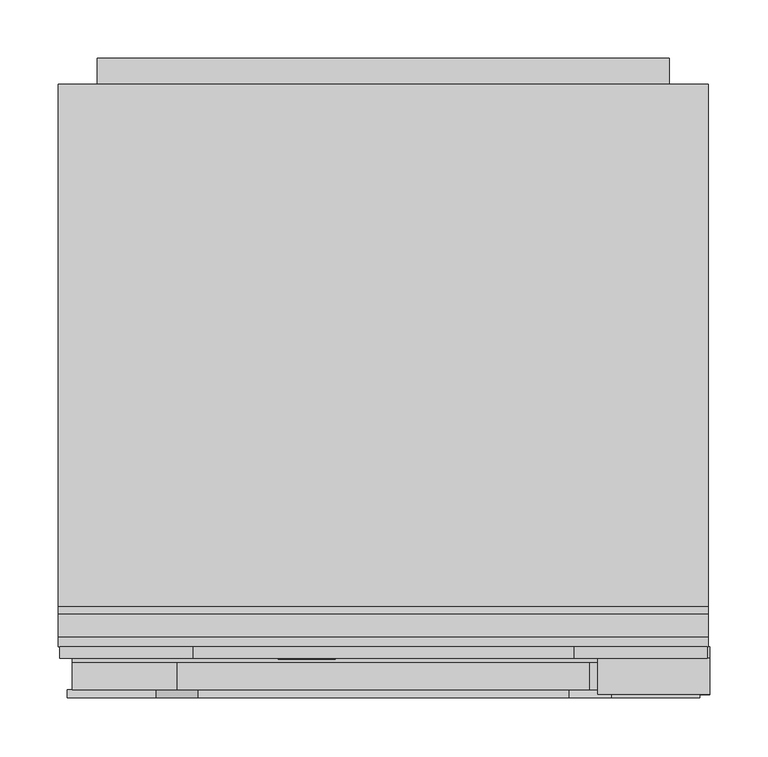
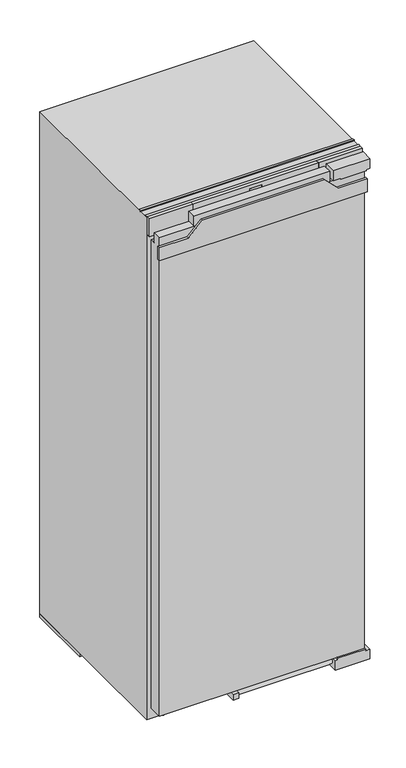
"""IFC4 building model written with IfcOpenShell, lengths in millimetres: proxy geometry, 12444110_EU1_K7447C : 36744700_EU1_12444110_K7447C."""

from ifc_helpers import new_model, si_unit, point, frame, frame_2d, origin, origin_with_axes, place, context, project, spatial, polyline, circle_curve, ellipse_curve, trimmed, segment, composite_curve, outline, extrude, faceted_brep, source, transform, mapped, element, save
from ifc_brep_helpers import plane_surface, cylinder_surface, revolved_surface, extruded_surface, advanced_brep


def specialty_equipment_6a50e842(model_context):
    return source(origin(), model_context, "Body", "SolidModel", [
        extrude(outline(polyline([(1355.0, 203.5), (1355.0, 269.5), (1358.0, 269.5), (1358.0, 279.5), (1385.0, 279.5), (1385.0, 183.5), (1358.0, 183.5), (1358.0, 203.5), (1355.0, 203.5)])), frame((0.0, 3.0, 0.0), z_axis=(0.0, 1.0, 0.0), x_axis=(0.0, 0.0, 1.0)), (0.0, 0.0, 1.0), 31.0),
        extrude(outline(polyline([(34.0, 189.5), (7.0, 189.5), (7.0, 279.5), (34.0, 279.5), (34.0, 268.5), (38.0, 268.5), (38.0, 195.5), (34.0, 195.5), (34.0, 189.5)])), frame((0.0, 3.0, 0.0), z_axis=(0.0, 1.0, 0.0), x_axis=(0.0, 0.0, 1.0)), (0.0, 0.0, 1.0), 41.0),
        extrude(outline(polyline([(7.0, 38.0), (7.0, 1355.0), (30.0, 1355.0), (30.0, 1328.0), (44.0, 1328.0), (44.0, 38.0), (7.0, 38.0)])), frame((-266.5, 0.0, 0.0), z_axis=(1.0, 0.0, 0.0), x_axis=(0.0, 1.0, 0.0)), (0.0, 0.0, 1.0), 533.0),
        extrude(outline(polyline([(176.5, 7.0), (-176.5, 7.0), (-176.5, 30.0), (176.5, 30.0), (176.5, 7.0)])), frame((0.0, 0.0, 1355.0), z_axis=(0.0, 0.0, 1.0), x_axis=(1.0, 0.0, 0.0)), (0.0, 0.0, 1.0), 28.0),
        extrude(outline(polyline([(1298.0, 271.0), (1334.0, 271.0), (1334.0, 195.0), (1370.0, 159.0), (1370.0, -159.0), (1334.0, -195.0), (1334.0, -271.0), (1298.0, -271.0), (1298.0, 271.0)])), frame((0.0, 0.0, 0.0), z_axis=(0.0, 1.0, 0.0), x_axis=(0.0, 0.0, 1.0)), (0.0, 0.0, 1.0), 7.0),
        extrude(outline(polyline([(-74.0, 42.0), (-59.0, 42.0), (-59.0, 8.0), (-74.0, 8.0), (-74.0, 42.0)])), frame((0.0, 0.0, 14.0), z_axis=(0.0, 0.0, 1.0), x_axis=(1.0, 0.0, 0.0)), (0.0, 0.0, 1.0), 15.0),
        extrude(outline(composite_curve([segment(trimmed(circle_curve(frame_2d((-65.5, 25.0)), 6.5), [point((-72.0, 25.0))], [point((-59.0, 25.0))], False, "CARTESIAN"), True, "CONTINUOUS"), segment(trimmed(circle_curve(frame_2d((-65.5, 25.0)), 6.5), [point((-59.0, 25.0))], [point((-72.0, 25.0))], False, "CARTESIAN"), True, "CONTINUOUS")], self_intersect=False)), frame((0.0, 0.0, 29.0), z_axis=(0.0, 0.0, 1.0), x_axis=(1.0, 0.0, 0.0)), (0.0, 0.0, 1.0), 9.0),
        extrude(outline(composite_curve([segment(trimmed(circle_curve(frame_2d((25.0, 23.0)), 9.0), [point((25.0, 14.0))], [point((25.0, 32.0))], False, "CARTESIAN"), True, "CONTINUOUS"), segment(trimmed(circle_curve(frame_2d((25.0, 23.0)), 9.0), [point((25.0, 32.0))], [point((25.0, 14.0))], False, "CARTESIAN"), True, "CONTINUOUS")], self_intersect=False)), frame((-59.0, 0.0, 0.0), z_axis=(1.0, 0.0, 0.0), x_axis=(0.0, 1.0, 0.0)), (0.0, 0.0, 1.0), 248.5),
        advanced_brep(
        [(-46.64, 33.0, 1367.896), (-46.64, 33.0, 1368.704), (-41.288, 33.0, 1368.704), (-50.6, 33.0, 1368.704), (-48.4, 33.0, 1366.0), (-41.424, 33.0, 1367.896), (-43.84, 33.0, 1367.896), (-45.744, 33.0, 1367.0), (-46.64, 33.0, 1369.728), (-46.64, 33.0, 1370.6), (-45.272, 33.0, 1370.6), (-45.272, 33.0, 1369.728), (-46.64, 34.0, 1367.896), (-45.744, 34.0, 1367.0), (-43.84, 34.0, 1367.896), (-41.424, 34.0, 1367.896), (-48.4, 34.0, 1366.0), (-50.6, 34.0, 1368.704), (-41.288, 34.0, 1368.704), (-46.64, 34.0, 1368.704), (-46.64, 34.0, 1369.728), (-45.272, 34.0, 1369.728), (-45.272, 34.0, 1370.6), (-46.64, 34.0, 1370.6)],
        [
            (0, 1),
            (1, 2),
            (2, 3, ellipse_curve(frame((-45.944, 33.0, 1368.704), z_axis=(0.0, -1.0, 0.0), x_axis=(-1.0, 0.0, 0.0)), 4.656, 3.848)),
            (3, 4, circle_curve(frame((-47.5039564, 33.0, 1368.976), z_axis=(0.0, -1.0, 0.0), x_axis=(0.0, 0.0, -1.0)), 3.1079688)),
            (4, 5, circle_curve(frame((-46.0372064, 33.0, 1371.088), z_axis=(0.0, -1.0, 0.0), x_axis=(0.0, 0.0, -1.0)), 5.6098607)),
            (5, 6),
            (6, 7, circle_curve(frame((-45.3529412, 33.0, 1368.64), z_axis=(0.0, 1.0, 0.0), x_axis=(0.0, 0.0, -1.0)), 1.6859795)),
            (7, 0, circle_curve(frame((-45.744, 33.0, 1367.896), z_axis=(0.0, 1.0, 0.0), x_axis=(0.0, 0.0, -1.0)), 0.896)),
            (8, 9),
            (9, 10, circle_curve(frame((-45.956, 33.0, 1370.6), z_axis=(0.0, 1.0, 0.0), x_axis=(0.0, 0.0, -1.0)), 0.684)),
            (10, 11),
            (11, 8),
            (12, 13, circle_curve(frame((-45.744, 34.0, 1367.896), z_axis=(0.0, -1.0, 0.0), x_axis=(0.0, 0.0, -1.0)), 0.896)),
            (13, 14, circle_curve(frame((-45.3529412, 34.0, 1368.64), z_axis=(0.0, -1.0, 0.0), x_axis=(0.0, 0.0, -1.0)), 1.6859795)),
            (14, 15),
            (15, 16, circle_curve(frame((-46.0372064, 34.0, 1371.088), z_axis=(0.0, 1.0, 0.0), x_axis=(0.0, 0.0, -1.0)), 5.6098607)),
            (16, 17, circle_curve(frame((-47.5039564, 34.0, 1368.976), z_axis=(0.0, 1.0, 0.0), x_axis=(0.0, 0.0, -1.0)), 3.1079688)),
            (17, 18, ellipse_curve(frame((-45.944, 34.0, 1368.704), z_axis=(0.0, 1.0, 0.0), x_axis=(-1.0, 0.0, 0.0)), 4.656, 3.848)),
            (18, 19),
            (19, 12),
            (20, 21),
            (21, 22),
            (22, 23, circle_curve(frame((-45.956, 34.0, 1370.6), z_axis=(0.0, -1.0, 0.0), x_axis=(0.0, 0.0, -1.0)), 0.684)),
            (23, 20),
            (0, 12),
            (19, 1),
            (18, 2),
            (5, 15),
            (14, 6),
            (17, 3),
            (13, 7),
            (16, 4),
            (8, 20),
            (23, 9),
            (22, 10),
            (21, 11),
        ],
        [
            plane_surface(frame((-46.64, 33.0, 1368.704), z_axis=(0.0, -1.0, 0.0), x_axis=(0.0, 0.0, 1.0))),
            plane_surface(frame((-46.64, 34.0, 1368.704), z_axis=(0.0, 1.0, 0.0), x_axis=(0.0, 0.0, -1.0))),
            plane_surface(frame((-46.64, 33.0, 1367.896), z_axis=(1.0, 0.0, 0.0), x_axis=(0.0, 1.0, 0.0))),
            plane_surface(frame((-46.64, 33.0, 1368.704), z_axis=(0.0, 0.0, -1.0), x_axis=(0.0, 1.0, 0.0))),
            plane_surface(frame((-41.424, 33.0, 1367.896), z_axis=(0.0, 0.0, 1.0), x_axis=(0.0, 1.0, 0.0))),
            extruded_surface(trimmed(ellipse_curve(frame((-45.944, 35.0, 1368.704), z_axis=(0.0, -1.0, 0.0), x_axis=(-1.0, 0.0, 0.0)), 4.656, 3.848), [point((-41.288, 35.0, 1368.704))], [point((-50.6, 35.0, 1368.704))], True, "CARTESIAN"), (0.0, -1.0, 0.0), 1.0),
            revolved_surface(polyline([(-45.3529412, 34.0, 1366.9540205), (-45.3529412, 33.0, 1366.9540205)]), (-45.3529412, 34.0, 1368.64), (0.0, 1.0, 0.0)),
            revolved_surface(polyline([(-45.744, 34.0, 1367.0), (-45.744, 33.0, 1367.0)]), (-45.744, 34.0, 1367.896), (0.0, 1.0, 0.0)),
            cylinder_surface(frame((-47.5039564, 34.0, 1368.976), z_axis=(0.0, -1.0, 0.0), x_axis=(0.0, 0.0, -1.0)), 3.1079688),
            cylinder_surface(frame((-46.0372064, 34.0, 1371.088), z_axis=(0.0, -1.0, 0.0), x_axis=(0.0, 0.0, -1.0)), 5.6098607),
            plane_surface(frame((-46.64, 33.0, 1369.728), z_axis=(1.0, 0.0, 0.0), x_axis=(0.0, 1.0, 0.0))),
            revolved_surface(polyline([(-45.956, 34.0, 1369.916), (-45.956, 33.0, 1369.916)]), (-45.956, 34.0, 1370.6), (0.0, 1.0, 0.0)),
            plane_surface(frame((-45.272, 33.0, 1370.6), z_axis=(-1.0, 0.0, 0.0), x_axis=(0.0, 1.0, 0.0))),
            plane_surface(frame((-45.272, 33.0, 1369.728), z_axis=(0.0, 0.0, 1.0), x_axis=(0.0, 1.0, 0.0))),
        ],
        [
            (0, [[1, 2, 3, 4, 5, 6, 7, 8], [9, 10, 11, 12]]),
            (1, [[13, 14, 15, 16, 17, 18, 19, 20], [21, 22, 23, 24]]),
            (2, [[-1, 25, -20, 26]]),
            (3, [[-2, -26, -19, 27]]),
            (4, [[-6, 28, -15, 29]]),
            (5, [[-3, -27, -18, 30]]),
            (6, [[-7, -29, -14, 31]]),
            (7, [[-8, -31, -13, -25]]),
            (8, [[-4, -30, -17, 32]]),
            (9, [[-5, -32, -16, -28]]),
            (10, [[-9, 33, -24, 34]]),
            (11, [[-10, -34, -23, 35]]),
            (12, [[-11, -35, -22, 36]]),
            (13, [[-12, -36, -21, -33]]),
        ],
    ),
        advanced_brep(
        [(-63.336, 33.0, 1367.896), (-63.336, 33.0, 1368.704), (-57.984, 33.0, 1368.704), (-67.296, 33.0, 1368.704), (-65.096, 33.0, 1366.0), (-58.12, 33.0, 1367.896), (-60.536, 33.0, 1367.896), (-62.44, 33.0, 1367.0), (-63.336, 33.0, 1369.728), (-63.336, 33.0, 1370.6), (-61.968, 33.0, 1370.6), (-61.968, 33.0, 1369.728), (-63.336, 34.0, 1367.896), (-62.44, 34.0, 1367.0), (-60.536, 34.0, 1367.896), (-58.12, 34.0, 1367.896), (-65.096, 34.0, 1366.0), (-67.296, 34.0, 1368.704), (-57.984, 34.0, 1368.704), (-63.336, 34.0, 1368.704), (-63.336, 34.0, 1369.728), (-61.968, 34.0, 1369.728), (-61.968, 34.0, 1370.6), (-63.336, 34.0, 1370.6)],
        [
            (0, 1),
            (1, 2),
            (2, 3, ellipse_curve(frame((-62.64, 33.0, 1368.704), z_axis=(0.0, -1.0, 0.0), x_axis=(-1.0, 0.0, 0.0)), 4.656, 3.848)),
            (3, 4, circle_curve(frame((-64.1999564, 33.0, 1368.976), z_axis=(0.0, -1.0, 0.0), x_axis=(0.0, 0.0, -1.0)), 3.1079688)),
            (4, 5, circle_curve(frame((-62.7332064, 33.0, 1371.088), z_axis=(0.0, -1.0, 0.0), x_axis=(0.0, 0.0, -1.0)), 5.6098607)),
            (5, 6),
            (6, 7, circle_curve(frame((-62.0489412, 33.0, 1368.64), z_axis=(0.0, 1.0, 0.0), x_axis=(0.0, 0.0, -1.0)), 1.6859795)),
            (7, 0, circle_curve(frame((-62.44, 33.0, 1367.896), z_axis=(0.0, 1.0, 0.0), x_axis=(0.0, 0.0, -1.0)), 0.896)),
            (8, 9),
            (9, 10, circle_curve(frame((-62.652, 33.0, 1370.6), z_axis=(0.0, 1.0, 0.0), x_axis=(0.0, 0.0, -1.0)), 0.684)),
            (10, 11),
            (11, 8),
            (12, 13, circle_curve(frame((-62.44, 34.0, 1367.896), z_axis=(0.0, -1.0, 0.0), x_axis=(0.0, 0.0, -1.0)), 0.896)),
            (13, 14, circle_curve(frame((-62.0489412, 34.0, 1368.64), z_axis=(0.0, -1.0, 0.0), x_axis=(0.0, 0.0, -1.0)), 1.6859795)),
            (14, 15),
            (15, 16, circle_curve(frame((-62.7332064, 34.0, 1371.088), z_axis=(0.0, 1.0, 0.0), x_axis=(0.0, 0.0, -1.0)), 5.6098607)),
            (16, 17, circle_curve(frame((-64.1999564, 34.0, 1368.976), z_axis=(0.0, 1.0, 0.0), x_axis=(0.0, 0.0, -1.0)), 3.1079688)),
            (17, 18, ellipse_curve(frame((-62.64, 34.0, 1368.704), z_axis=(0.0, 1.0, 0.0), x_axis=(-1.0, 0.0, 0.0)), 4.656, 3.848)),
            (18, 19),
            (19, 12),
            (20, 21),
            (21, 22),
            (22, 23, circle_curve(frame((-62.652, 34.0, 1370.6), z_axis=(0.0, -1.0, 0.0), x_axis=(0.0, 0.0, -1.0)), 0.684)),
            (23, 20),
            (0, 12),
            (19, 1),
            (18, 2),
            (5, 15),
            (14, 6),
            (17, 3),
            (13, 7),
            (16, 4),
            (8, 20),
            (23, 9),
            (22, 10),
            (21, 11),
        ],
        [
            plane_surface(frame((-63.336, 33.0, 1368.704), z_axis=(0.0, -1.0, 0.0), x_axis=(0.0, 0.0, 1.0))),
            plane_surface(frame((-63.336, 34.0, 1368.704), z_axis=(0.0, 1.0, 0.0), x_axis=(0.0, 0.0, -1.0))),
            plane_surface(frame((-63.336, 33.0, 1367.896), z_axis=(1.0, 0.0, 0.0), x_axis=(0.0, 1.0, 0.0))),
            plane_surface(frame((-63.336, 33.0, 1368.704), z_axis=(0.0, 0.0, -1.0), x_axis=(0.0, 1.0, 0.0))),
            plane_surface(frame((-58.12, 33.0, 1367.896), z_axis=(0.0, 0.0, 1.0), x_axis=(0.0, 1.0, 0.0))),
            extruded_surface(trimmed(ellipse_curve(frame((-62.64, 35.0, 1368.704), z_axis=(0.0, -1.0, 0.0), x_axis=(-1.0, 0.0, 0.0)), 4.656, 3.848), [point((-57.984, 35.0, 1368.704))], [point((-67.296, 35.0, 1368.704))], True, "CARTESIAN"), (0.0, -1.0, 0.0), 1.0),
            revolved_surface(polyline([(-62.0489412, 34.0, 1366.9540205), (-62.0489412, 33.0, 1366.9540205)]), (-62.0489412, 34.0, 1368.64), (0.0, 1.0, 0.0)),
            revolved_surface(polyline([(-62.44, 34.0, 1367.0), (-62.44, 33.0, 1367.0)]), (-62.44, 34.0, 1367.896), (0.0, 1.0, 0.0)),
            cylinder_surface(frame((-64.1999564, 34.0, 1368.976), z_axis=(0.0, -1.0, 0.0), x_axis=(0.0, 0.0, -1.0)), 3.1079688),
            cylinder_surface(frame((-62.7332064, 34.0, 1371.088), z_axis=(0.0, -1.0, 0.0), x_axis=(0.0, 0.0, -1.0)), 5.6098607),
            plane_surface(frame((-63.336, 33.0, 1369.728), z_axis=(1.0, 0.0, 0.0), x_axis=(0.0, 1.0, 0.0))),
            revolved_surface(polyline([(-62.652, 34.0, 1369.916), (-62.652, 33.0, 1369.916)]), (-62.652, 34.0, 1370.6), (0.0, 1.0, 0.0)),
            plane_surface(frame((-61.968, 33.0, 1370.6), z_axis=(-1.0, 0.0, 0.0), x_axis=(0.0, 1.0, 0.0))),
            plane_surface(frame((-61.968, 33.0, 1369.728), z_axis=(0.0, 0.0, 1.0), x_axis=(0.0, 1.0, 0.0))),
        ],
        [
            (0, [[1, 2, 3, 4, 5, 6, 7, 8], [9, 10, 11, 12]]),
            (1, [[13, 14, 15, 16, 17, 18, 19, 20], [21, 22, 23, 24]]),
            (2, [[-1, 25, -20, 26]]),
            (3, [[-2, -26, -19, 27]]),
            (4, [[-6, 28, -15, 29]]),
            (5, [[-3, -27, -18, 30]]),
            (6, [[-7, -29, -14, 31]]),
            (7, [[-8, -31, -13, -25]]),
            (8, [[-4, -30, -17, 32]]),
            (9, [[-5, -32, -16, -28]]),
            (10, [[-9, 33, -24, 34]]),
            (11, [[-10, -34, -23, 35]]),
            (12, [[-11, -35, -22, 36]]),
            (13, [[-12, -36, -21, -33]]),
        ],
    ),
        extrude(outline(polyline([(1373.528, -72.08), (1372.232, -71.472), (1373.496, -68.76), (1374.792, -69.36), (1373.528, -72.08)])), frame((0.0, 33.0, 0.0), z_axis=(0.0, 1.0, 0.0), x_axis=(0.0, 0.0, 1.0)), (0.0, 0.0, 1.0), 1.0),
        extrude(outline(polyline([(1372.056, -74.056), (1370.624, -74.056), (1370.624, -73.104), (1367.344, -73.104), (1367.344, -74.056), (1366.0, -74.056), (1366.0, -67.744), (1367.344, -67.744), (1367.344, -68.672), (1372.056, -68.672), (1372.056, -74.056)])), frame((0.0, 33.0, 0.0), z_axis=(0.0, 1.0, 0.0), x_axis=(0.0, 0.0, 1.0)), (0.0, 0.0, 1.0), 1.0),
        extrude(outline(polyline([(1372.696, -57.536), (1372.696, -56.576), (1367.344, -56.576), (1367.344, -57.536), (1366.0, -57.536), (1366.0, -51.048), (1367.344, -51.048), (1367.344, -52.032), (1374.0, -52.032), (1374.0, -57.536), (1372.696, -57.536)])), frame((0.0, 33.0, 0.0), z_axis=(0.0, 1.0, 0.0), x_axis=(0.0, 0.0, 1.0)), (0.0, 0.0, 1.0), 1.0),
        extrude(outline(polyline([(1372.696, -90.0), (1372.696, -89.032), (1367.344, -89.032), (1367.344, -90.0), (1366.0, -90.0), (1366.0, -86.48), (1367.344, -86.48), (1367.344, -87.44), (1370.7471247, -87.44), (1366.0, -83.864), (1370.8152223, -80.272), (1367.344, -80.272), (1367.344, -81.256), (1366.0, -81.256), (1366.0, -74.872), (1367.344, -74.872), (1367.344, -75.888), (1372.696, -75.888), (1372.696, -74.872), (1374.0, -74.872), (1374.0, -79.744), (1371.0, -82.08), (1374.0, -84.424), (1374.0, -90.0), (1372.696, -90.0)])), frame((0.0, 33.0, 0.0), z_axis=(0.0, 1.0, 0.0), x_axis=(0.0, 0.0, 1.0)), (0.0, 0.0, 1.0), 1.0),
        extrude(outline(polyline([(-15.0, 35.0), (15.0, 35.0), (15.0, 34.0), (-15.0, 34.0), (-15.0, 35.0)])), frame((0.0, 0.0, 1356.0), z_axis=(0.0, 0.0, 1.0), x_axis=(1.0, 0.0, 0.0)), (0.0, 0.0, 1.0), 30.0),
        extrude(outline(polyline([(-277.5, 44.0), (-163.5, 44.0), (-163.5, 34.0), (-277.5, 34.0), (-277.5, 44.0)])), frame((0.0, 0.0, 1346.0), z_axis=(0.0, 0.0, 1.0), x_axis=(1.0, 0.0, 0.0)), (0.0, 0.0, 1.0), 49.0),
        extrude(outline(polyline([(163.5, 44.0), (277.5, 44.0), (277.5, 34.0), (163.5, 34.0), (163.5, 44.0)])), frame((0.0, 0.0, 1346.0), z_axis=(0.0, 0.0, 1.0), x_axis=(1.0, 0.0, 0.0)), (0.0, 0.0, 1.0), 49.0),
        faceted_brep([(163.5, 34.0, 1395.0), (-163.5, 34.0, 1395.0), (-163.5, 34.0, 1346.0), (163.5, 34.0, 1346.0), (15.0, 34.0, 1386.0), (15.0, 34.0, 1356.0), (-15.0, 34.0, 1356.0), (-15.0, 34.0, 1386.0), (163.5, 44.0, 1395.0), (163.5, 44.0, 1346.0), (-163.5, 44.0, 1346.0), (-163.5, 44.0, 1395.0), (15.0, 35.0, 1386.0), (-15.0, 35.0, 1386.0), (-15.0, 35.0, 1356.0), (15.0, 35.0, 1356.0)], [[[0, 1, 2, 3], [4, 5, 6, 7]], [[8, 9, 10, 11]], [[0, 3, 9, 8]], [[3, 2, 10, 9]], [[2, 1, 11, 10]], [[1, 0, 8, 11]], [[12, 13, 14, 15]], [[12, 15, 5, 4]], [[15, 14, 6, 5]], [[14, 13, 7, 6]], [[13, 12, 4, 7]]]),
        faceted_brep([(278.5, 526.0, 1392.0), (-278.5, 526.0, 1392.0), (-278.5, 44.0, 1392.0), (278.5, 44.0, 1392.0), (278.5, 526.0, 10.0), (278.5, 44.0, 10.0), (-278.5, 44.0, 10.0), (-278.5, 526.0, 10.0), (233.5, 44.0, 62.0), (-233.5, 44.0, 62.0), (-233.5, 44.0, 570.0), (-233.5, 44.0, 1317.0), (233.5, 44.0, 1317.0), (233.5, 44.0, 570.0), (233.5, 488.0, 1317.0), (-233.5, 488.0, 1317.0), (-233.5, 488.0, 570.0), (-233.5, 488.0, 62.0), (233.5, 488.0, 62.0), (233.5, 488.0, 570.0)], [[[0, 1, 2, 3]], [[4, 5, 6, 7]], [[1, 0, 4, 7]], [[2, 1, 7, 6]], [[3, 2, 6, 5], [8, 9, 10, 11, 12, 13]], [[0, 3, 5, 4]], [[14, 15, 16, 17, 18, 19]], [[18, 8, 13, 12, 14, 19]], [[18, 17, 9, 8]], [[9, 17, 16, 15, 11, 10]], [[15, 14, 12, 11]]]),
        extrude(outline(polyline([(278.5, 52.0), (278.5, 44.0), (-278.5, 44.0), (-278.5, 52.0), (278.5, 52.0)])), frame((0.0, 0.0, 1392.0), z_axis=(0.0, 0.0, 1.0), x_axis=(1.0, 0.0, 0.0)), (0.0, 0.0, 1.0), 3.0),
        extrude(outline(polyline([(278.5, 78.0), (278.5, 72.0), (-278.5, 72.0), (-278.5, 78.0), (278.5, 78.0)])), frame((0.0, 0.0, 1392.0), z_axis=(0.0, 0.0, 1.0), x_axis=(1.0, 0.0, 0.0)), (0.0, 0.0, 1.0), 3.0),
        extrude(outline(polyline([(278.5, 526.0), (278.5, 346.0), (-278.5, 346.0), (-278.5, 526.0), (278.5, 526.0)])), origin_with_axes(), (0.0, 0.0, 1.0), 10.0),
        extrude(outline(composite_curve([segment(trimmed(circle_curve(frame_2d((228.0, 64.0)), 11.0), [point((239.0, 64.0))], [point((217.0, 64.0))], False, "CARTESIAN"), True, "CONTINUOUS"), segment(trimmed(circle_curve(frame_2d((228.0, 64.0)), 11.0), [point((217.0, 64.0))], [point((239.0, 64.0))], False, "CARTESIAN"), True, "CONTINUOUS")], self_intersect=False)), origin_with_axes(), (0.0, 0.0, 1.0), 10.0),
        extrude(outline(composite_curve([segment(trimmed(circle_curve(frame_2d((-228.0, 64.0)), 11.0), [point((-217.0, 64.0))], [point((-239.0, 64.0))], False, "CARTESIAN"), True, "CONTINUOUS"), segment(trimmed(circle_curve(frame_2d((-228.0, 64.0)), 11.0), [point((-239.0, 64.0))], [point((-217.0, 64.0))], False, "CARTESIAN"), True, "CONTINUOUS")], self_intersect=False)), origin_with_axes(), (0.0, 0.0, 1.0), 10.0),
        extrude(outline(polyline([(-233.5, 350.0), (-233.5, 488.0), (233.5, 488.0), (233.5, 350.0), (-233.5, 350.0)])), frame((0.0, 0.0, 62.0), z_axis=(0.0, 0.0, 1.0), x_axis=(1.0, 0.0, 0.0)), (0.0, 0.0, 1.0), 188.0),
        extrude(outline(polyline([(-233.5, 44.0), (-233.5, 488.0), (233.5, 488.0), (233.5, 44.0), (-233.5, 44.0)])), frame((0.0, 0.0, 477.0), z_axis=(0.0, 0.0, 1.0), x_axis=(1.0, 0.0, 0.0)), (0.0, 0.0, 1.0), 3.0),
        extrude(outline(polyline([(-34.0, 44.0), (34.0, 44.0), (34.0, 35.0), (-34.0, 35.0), (-34.0, 44.0)])), frame((0.0, 0.0, 13.0), z_axis=(0.0, 0.0, 1.0), x_axis=(1.0, 0.0, 0.0)), (0.0, 0.0, 1.0), 19.0),
        advanced_brep(
        [(232.0, 526.0, 145.0), (217.0, 526.0, 145.0), (232.0, 547.5, 145.0), (217.0, 532.5, 145.0), (194.5, 547.5, 145.0), (194.5, 532.5, 145.0)],
        [
            (0, 1, circle_curve(frame((224.5, 526.0, 145.0), z_axis=(0.0, -1.0, 0.0), x_axis=(-1.0, 0.0, 0.0)), 7.5)),
            (1, 0, circle_curve(frame((224.5, 526.0, 145.0), z_axis=(0.0, -1.0, 0.0), x_axis=(-1.0, 0.0, 0.0)), 7.5)),
            (0, 2),
            (2, 3, ellipse_curve(frame((224.5, 540.0, 145.0), z_axis=(0.7071067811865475, -0.7071067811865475, 0.0), x_axis=(-0.7071067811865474, -0.7071067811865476, 0.0)), 10.6066017, 7.5)),
            (3, 1),
            (3, 2, ellipse_curve(frame((224.5, 540.0, 145.0), z_axis=(0.7071067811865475, -0.7071067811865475, 0.0), x_axis=(-0.7071067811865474, -0.7071067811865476, 0.0)), 10.6066017, 7.5)),
            (4, 5, circle_curve(frame((194.5, 540.0, 145.0), z_axis=(-1.0, 0.0, 0.0), x_axis=(0.0, -1.0, 0.0)), 7.5)),
            (5, 4, circle_curve(frame((194.5, 540.0, 145.0), z_axis=(-1.0, 0.0, 0.0), x_axis=(0.0, -1.0, 0.0)), 7.5)),
            (2, 4),
            (5, 3),
        ],
        [
            plane_surface(frame((224.5, 526.0, 145.0), z_axis=(0.0, -1.0, 0.0), x_axis=(0.0, 0.0, 1.0))),
            cylinder_surface(frame((224.5, 526.0, 145.0), z_axis=(0.0, -1.0, 0.0), x_axis=(-1.0, 0.0, 0.0)), 7.5),
            plane_surface(frame((194.5, 540.0, 145.0), z_axis=(-1.0, 0.0, 0.0), x_axis=(0.0, 0.0, 1.0))),
            cylinder_surface(frame((224.5, 540.0, 145.0), z_axis=(1.0, 0.0, 0.0), x_axis=(0.0, -1.0, 0.0)), 7.5),
        ],
        [
            (0, [[1, 2]]),
            (1, [[-1, 3, 4, 5]]),
            (1, [[-2, -5, 6, -3]]),
            (2, [[7, 8]]),
            (3, [[-4, 9, -8, 10]]),
            (3, [[-6, -10, -7, -9]]),
        ],
    ),
        extrude(outline(polyline([(539.651012, 148.8988246), (539.651012, 150.150839), (546.8850603, 150.150839), (546.8850603, 140.1043073), (539.5027529, 140.1043073), (539.5027529, 141.3585545), (545.6152499, 141.3585545), (545.6152499, 144.6556887), (539.967462, 144.6556887), (539.967462, 145.9162842), (545.6270824, 145.9162842), (545.6270824, 148.8988246), (539.651012, 148.8988246)])), frame((193.5, 0.0, 0.0), z_axis=(1.0, 0.0, 0.0), x_axis=(0.0, 1.0, 0.0)), (0.0, 0.0, 1.0), 1.0),
        extrude(outline(polyline([(537.624075, 150.150839), (537.624075, 140.1043073), (531.3334819, 140.1043073), (531.3334819, 141.3573374), (536.3334819, 141.3573374), (536.3334819, 150.150839), (537.624075, 150.150839)])), frame((193.5, 0.0, 0.0), z_axis=(1.0, 0.0, 0.0), x_axis=(0.0, 1.0, 0.0)), (0.0, 0.0, 1.0), 1.0),
        extrude(outline(polyline([(-144.9049535, 93.0), (-174.0, 93.0), (-194.5002931, 346.0), (-165.4052466, 346.0), (-144.9049535, 93.0)])), origin_with_axes(), (0.0, 0.0, 1.0), 10.0),
        extrude(outline(polyline([(147.7868487, 93.0), (165.4177409, 346.0), (194.4880722, 346.0), (176.8571801, 93.0), (147.7868487, 93.0)])), origin_with_axes(), (0.0, 0.0, 1.0), 10.0),
        extrude(outline(polyline([(1347.0, -245.0), (27.0, -245.0), (27.0, 245.0), (130.0, 245.0), (130.0, 180.0), (160.0, 180.0), (160.0, 245.0), (1347.0, 245.0), (1347.0, -245.0)])), frame((0.0, 526.0, 0.0), z_axis=(0.0, 1.0, 0.0), x_axis=(0.0, 0.0, 1.0)), (0.0, 0.0, 1.0), 22.0),
    ])


if __name__ == "__main__":
    model = new_model("IFC4")
    model_context = context("Model", 3, world=origin())
    ifc_project = project(units=[si_unit("LENGTHUNIT", "METRE", prefix="MILLI")], contexts=[model_context])
    site = spatial("IfcSite", under=ifc_project)
    building = spatial("IfcBuilding", under=site)
    placement = place(None, origin())
    specialty_equipment_shape = specialty_equipment_6a50e842(model_context)
    element("IfcBuildingElementProxy", 1, Name="12444110_EU1_K7447C : 36744700_EU1_12444110_K7447C", ObjectType="12444110_EU1_K7447C : 36744700_EU1_12444110_K7447C", at=placement, inside=building, context=model_context, shape_type="MappedRepresentation", body=[
        mapped(specialty_equipment_shape, transform((0.0, 0.0, 0.0), x_axis=(1.0, 0.0, 0.0), y_axis=(0.0, 1.0, 0.0), z_axis=(0.0, 0.0, 1.0))),
    ])
    save(model, "model.ifc")
